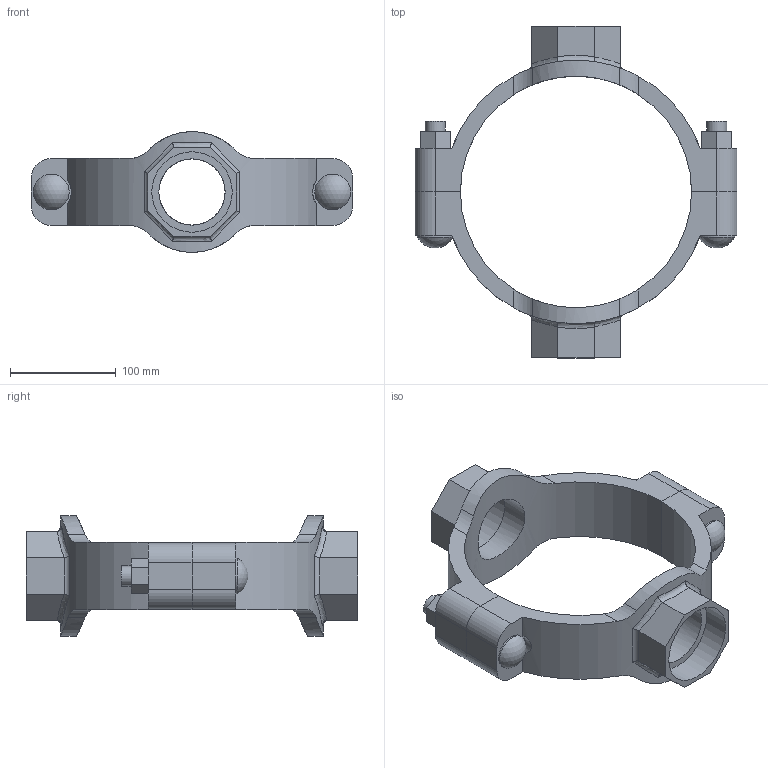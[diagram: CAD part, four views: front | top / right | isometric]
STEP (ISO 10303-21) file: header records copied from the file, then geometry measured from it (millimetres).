
FILE_DESCRIPTION(/* description */ ('VIC MECH-T BRANCH OUTLET CROSS STYLE 920N (THD)','CAx-IF Rec.Pracs.---Representation and Presentation of Product Manufacturing Information (PMI)---4.0---2014-10-13'),/* implementation_level */ '2;1');
FILE_NAME(/* name */ 'C:\Users\Vjadhav\AppData\Roaming\Autodesk\ApplicationPlugins\Back Up\Victaulic_IPS_Mechanical-Cross Outlet_Style 920N (FPT)\Victaulic_IPS_Mechanical-Cross Outlet_08.0x02.5 (76.1)x02.5 (76.1) (200x65x65).stp',/* time_stamp */ '2020-08-06T19:01:01+06:00',/* author */ ('Vjadhav'),/* organization */ ('Victaulic'),/* preprocessor_version */ 'ST-DEVELOPER v17.2',/* originating_system */ 'Autodesk Inventor 2019',/* authorisation */ '');
FILE_SCHEMA (('AP242_MANAGED_MODEL_BASED_3D_ENGINEERING_MIM_LF { 1 0 10303 442 1 1 4 }'));
Length unit declared in the file: inch
Products named in the file (3): 920NT-08.0x02.5 (76.1)x02.5 (76.1); 920T-08.0x02.5 (76.1); 920T-08.0x02.5 (76.1)_1
Assembly tree (2 placements, depth 2):
  920NT-08.0x02.5 (76.1)x02.5 (76.1)
    920T-08.0x02.5 (76.1)
    920T-08.0x02.5 (76.1)_1
Bounding box: 304.8 x 314.45 x 114.3 mm (x, y, z)
Volume: 1131871.1 mm3; surface area: 214428.7 mm2
Topology: 2 solids, 2 shells, 132 faces, 350 edges, 236 vertices
Faces by surface type: plane 68, cylinder 50, bspline 8, torus 4, sphere 2
Full cylindrical faces by diameter (mm): 19.05 x4, 33.843 x2, 62.738 x2, 76.2 x2
Entity records: 5249 total; most frequent: CARTESIAN_POINT 1736, ORIENTED_EDGE 700, DIRECTION 648, EDGE_CURVE 350, VERTEX_POINT 236, AXIS2_PLACEMENT_3D 231, LINE 186, VECTOR 186
